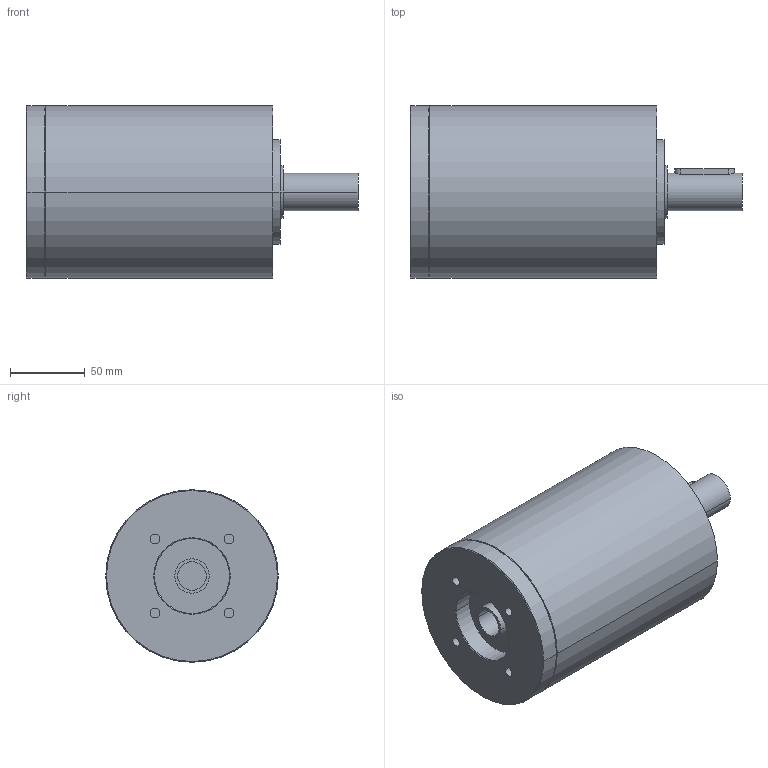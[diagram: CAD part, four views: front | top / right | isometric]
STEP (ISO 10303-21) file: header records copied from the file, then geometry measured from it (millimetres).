
FILE_DESCRIPTION(('CoCreate Modeling STEP Export'),'2;1');
FILE_NAME('GPR125_ig-9-12-16-20-28-35_25_B14_19_P14.stp','2014-08-26T14:10:45',(''),(''),'CoCreate Modeling STEP processor for AP214 (Solid Model)','CoCreate Modeling 16.00C 25-Feb-2009 (C) Parametric Technology GmbH','');
FILE_SCHEMA(('AUTOMOTIVE_DESIGN { 1 0 10303 214 1 1 1 1 }'));
Length unit declared in the file: millimetre
Products named in the file (2): GPR125_ig-9-12-16-20-28-35_25_B14_19_P14
Assembly tree (1 placements, depth 2):
  GPR125_ig-9-12-16-20-28-35_25_B14_19_P14
    GPR125_ig-9-12-16-20-28-35_25_B14_19_P14
Bounding box: 221.4 x 115 x 115 mm (x, y, z)
Volume: 1712775.2 mm3; surface area: 94982.9 mm2
Topology: 1 solids, 1 shells, 78 faces, 192 edges, 134 vertices
Faces by surface type: cylinder 44, plane 24, cone 10
Entity records: 1955 total; most frequent: ORIENTED_EDGE 380, CARTESIAN_POINT 360, DIRECTION 256, EDGE_CURVE 190, VERTEX_POINT 134, AXIS2_PLACEMENT_3D 98, EDGE_LOOP 98, FACE_OUTER_BOUND 78
